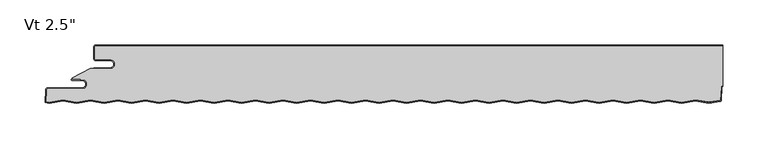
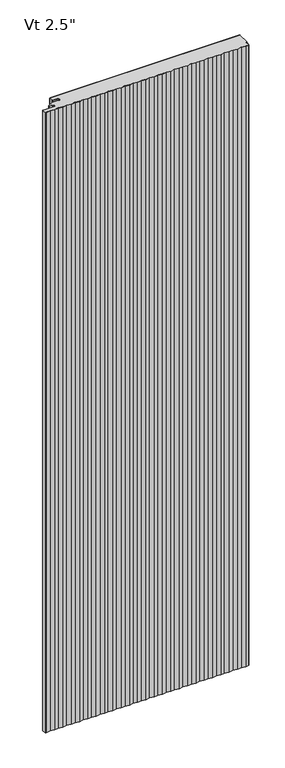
"""IFC4 building model written with IfcOpenShell, lengths in millimetres: plate geometry."""

import ifcopenshell
import ifcopenshell.guid

model = None  # the IFC model being written
_history = None  # IfcOwnerHistory: only IFC2X3 demands one
_inside = {}  # id of a spatial element -> (the spatial element, [elements in it])
_under = {}  # id of a project, library or spatial element -> (it, [spatial elements below it])
_declared = {}  # id of a project -> (the project, [libraries it declares])
_typed = {}  # id of a type object -> (the type object, [elements of that type])
_made_of = {}  # id of a material, layer set ... -> (it, [elements and type objects made of it])


def new_model(schema):
    """Start an empty IFC model of exactly this schema.

    Asked for "IFC4X3", IfcOpenShell would pick the latest addendum, in which some entities
    have other attributes; the version numbers below select the first issue.
    IFC2X3 requires an IfcOwnerHistory on every rooted entity: one is made here for all.
    """
    global model, _history
    if schema == "IFC4X3":
        model = ifcopenshell.file(schema_version=(4, 3, 0, 0))
    else:
        model = ifcopenshell.file(schema=schema)
    _inside.clear()
    _under.clear()
    _declared.clear()
    _typed.clear()
    _made_of.clear()
    _history = None
    if model.schema == "IFC2X3":
        org = make("IfcOrganization", Name="unknown")
        user = make(
            "IfcPersonAndOrganization",
            ThePerson=make("IfcPerson", FamilyName="unknown"),
            TheOrganization=org,
        )
        app = make(
            "IfcApplication",
            ApplicationDeveloper=org,
            Version="unknown",
            ApplicationFullName="unknown",
            ApplicationIdentifier="unknown",
        )
        _history = make(
            "IfcOwnerHistory",
            OwningUser=user,
            OwningApplication=app,
            ChangeAction="ADDED",
            CreationDate=0,
        )
    return model


def make(cls, **values):
    """One entity of the class cls with the attributes given. An attribute that is None is left unset."""
    return model.create_entity(
        cls, **{name: value for name, value in values.items() if value is not None}
    )


def rooted(cls, **values):
    """An entity with a GlobalId (a new one), such as an element, a storey or a relation."""
    return make(cls, GlobalId=ifcopenshell.guid.new(), OwnerHistory=_history, **values)


def si_unit(unit_type, name, prefix=None):
    """IfcSIUnit, for example si_unit("LENGTHUNIT", "METRE", prefix="MILLI")."""
    return make("IfcSIUnit", UnitType=unit_type, Prefix=prefix, Name=name)


def assignment(units):
    """IfcUnitAssignment: the units of a project."""
    return None if units is None else make("IfcUnitAssignment", Units=units)


def point(xyz):
    """IfcCartesianPoint."""
    return None if xyz is None else make("IfcCartesianPoint", Coordinates=xyz)


def direction(xyz):
    """IfcDirection."""
    return None if xyz is None else make("IfcDirection", DirectionRatios=xyz)


def frame(location, z_axis=None, x_axis=None):
    """IfcAxis2Placement3D, a coordinate frame: its origin and axes. An axis left out is left unset."""
    return make(
        "IfcAxis2Placement3D",
        Location=point(location),
        Axis=direction(z_axis),
        RefDirection=direction(x_axis),
    )


def frame_2d(location, x_axis=None):
    """IfcAxis2Placement2D, a coordinate frame in the plane: its origin and x axis."""
    return make(
        "IfcAxis2Placement2D", Location=point(location), RefDirection=direction(x_axis)
    )


def origin():
    """The frame at (0, 0, 0) with its axes left unset."""
    return frame((0.0, 0.0, 0.0))


def origin_with_axes():
    """The frame at (0, 0, 0) with the z axis (0, 0, 1) and the x axis (1, 0, 0) written out."""
    return frame((0.0, 0.0, 0.0), z_axis=(0.0, 0.0, 1.0), x_axis=(1.0, 0.0, 0.0))


def place(relative_to, where):
    """IfcLocalPlacement: puts the frame where relative to a parent placement (None: the world)."""
    return make(
        "IfcLocalPlacement", PlacementRelTo=relative_to, RelativePlacement=where
    )


def context(
    kind, dimensions, precision=None, world=None, true_north=None, identifier=None
):
    """IfcGeometricRepresentationContext, for example the 3D "Model" context."""
    return make(
        "IfcGeometricRepresentationContext",
        ContextIdentifier=identifier,
        ContextType=kind,
        CoordinateSpaceDimension=dimensions,
        Precision=precision,
        WorldCoordinateSystem=world,
        TrueNorth=true_north,
    )


def project(units=None, contexts=None):
    """IfcProject with its units and contexts."""
    return rooted(
        "IfcProject",
        Name="project",
        RepresentationContexts=contexts,
        UnitsInContext=assignment(units),
    )


def spatial(cls, under=None, at=None, **own):
    """A site, building, storey or space (cls), placed at a placement, below another one or the project."""
    s = rooted(cls, ObjectPlacement=at, **own)
    if under is not None:
        _under.setdefault(under.id(), (under, []))[1].append(s)
    return s


def polyline(points):
    """IfcPolyline through the points."""
    return make("IfcPolyline", Points=[point(p) for p in points])


def circle_curve(where, radius):
    """IfcCircle in the frame where."""
    return make("IfcCircle", Position=where, Radius=radius)


def trimmed(basis, trim1, trim2, sense, master):
    """IfcTrimmedCurve: the piece of a basis curve between two trims."""
    return make(
        "IfcTrimmedCurve",
        BasisCurve=basis,
        Trim1=trim1,
        Trim2=trim2,
        SenseAgreement=sense,
        MasterRepresentation=master,
    )


def segment(curve, same_sense, transition):
    """IfcCompositeCurveSegment."""
    return make(
        "IfcCompositeCurveSegment",
        Transition=transition,
        SameSense=same_sense,
        ParentCurve=curve,
    )


def composite_curve(segments, self_intersect=None):
    """IfcCompositeCurve: segments joined end to end."""
    return make("IfcCompositeCurve", Segments=segments, SelfIntersect=self_intersect)


def outline(outer, holes=None, kind="AREA"):
    """IfcArbitraryClosedProfileDef: a profile drawn as a closed curve; with holes, ...WithVoids."""
    if holes is None:
        return make("IfcArbitraryClosedProfileDef", ProfileType=kind, OuterCurve=outer)
    return make(
        "IfcArbitraryProfileDefWithVoids",
        ProfileType=kind,
        OuterCurve=outer,
        InnerCurves=holes,
    )


def extrude(swept, where, along, depth):
    """IfcExtrudedAreaSolid: the profile swept, set in the frame where, extruded along a direction by depth."""
    return make(
        "IfcExtrudedAreaSolid",
        SweptArea=swept,
        Position=where,
        ExtrudedDirection=direction(along),
        Depth=depth,
    )


def shape(context_of_items, identifier, shape_type, items):
    """IfcShapeRepresentation: the items that make up one representation, for example the "Body"."""
    return make(
        "IfcShapeRepresentation",
        ContextOfItems=context_of_items,
        RepresentationIdentifier=identifier,
        RepresentationType=shape_type,
        Items=items,
    )


def source(mapping_origin, context_of_items, identifier, shape_type, items):
    """IfcRepresentationMap: a shape defined once, which mapped items show again and again."""
    return make(
        "IfcRepresentationMap",
        MappingOrigin=mapping_origin,
        MappedRepresentation=shape(context_of_items, identifier, shape_type, items),
    )


def transform(
    local_origin,
    x_axis=None,
    y_axis=None,
    z_axis=None,
    scale=None,
    scale2=None,
    scale3=None,
    uniform=True,
):
    """IfcCartesianTransformationOperator3D, or its non-uniform kind. x_axis, y_axis, z_axis: its Axis1, 2, 3."""
    if uniform:
        return make(
            "IfcCartesianTransformationOperator3D",
            Axis1=direction(x_axis),
            Axis2=direction(y_axis),
            LocalOrigin=point(local_origin),
            Scale=scale,
            Axis3=direction(z_axis),
        )
    return make(
        "IfcCartesianTransformationOperator3DnonUniform",
        Axis1=direction(x_axis),
        Axis2=direction(y_axis),
        LocalOrigin=point(local_origin),
        Scale=scale,
        Axis3=direction(z_axis),
        Scale2=scale2,
        Scale3=scale3,
    )


def mapped(mapping_source, mapping_target):
    """IfcMappedItem: shows the shape of a source again, moved by a transform."""
    return make(
        "IfcMappedItem", MappingSource=mapping_source, MappingTarget=mapping_target
    )


def made_of(thing, what):
    """Note that an element or type object is made of a material, layer set ...; save() writes the relation."""
    if what is not None:
        _made_of.setdefault(what.id(), (what, []))[1].append(thing)
    return thing


def element(
    cls,
    number,
    at=None,
    inside=None,
    cuts=None,
    type_object=None,
    material=None,
    context=None,
    identifier="Body",
    shape_type=None,
    held_by="IfcProductDefinitionShape",
    body=None,
    shapes=None,
    **own,
):
    """One element of the class cls, such as IfcWall. Its Tag is "e" and its number.

    at: its placement. inside: the storey or other place that contains it. cuts: it is an
    opening in that element (IfcRelVoidsElement). A single representation is given by context,
    identifier, shape_type and body (its items); several are given by shapes. held_by: the class
    of the entity that holds the representations. save() writes the other relations.
    """
    e = rooted(cls, Tag="e%d" % number, ObjectPlacement=at, **own)
    if body is not None:
        shapes = [shape(context, identifier, shape_type, body)]
    if shapes is not None:
        e.Representation = make(held_by, Representations=shapes)
    if inside is not None:
        _inside.setdefault(inside.id(), (inside, []))[1].append(e)
    if cuts is not None:
        rooted(
            "IfcRelVoidsElement", RelatingBuildingElement=cuts, RelatedOpeningElement=e
        )
    if type_object is not None:
        _typed.setdefault(type_object.id(), (type_object, []))[1].append(e)
    return made_of(e, material)


def aggregate(whole, parts):
    """IfcRelAggregates: a whole, such as a stair, and the parts it consists of."""
    return rooted("IfcRelAggregates", RelatingObject=whole, RelatedObjects=parts)


def save(model, path):
    """Write the relations noted so far, then the file.

    IfcRelAggregates (storeys below a building ...), IfcRelContainedInSpatialStructure (elements
    in a storey), IfcRelDefinesByType, IfcRelAssociatesMaterial and IfcRelDeclares: one each for
    every whole, place, type object, material and project.
    """
    for whole, parts in _under.values():
        aggregate(whole, parts)
    for where, things in _inside.values():
        rooted(
            "IfcRelContainedInSpatialStructure",
            RelatedElements=things,
            RelatingStructure=where,
        )
    for kind, things in _typed.values():
        rooted("IfcRelDefinesByType", RelatedObjects=things, RelatingType=kind)
    for what, things in _made_of.values():
        rooted("IfcRelAssociatesMaterial", RelatedObjects=things, RelatingMaterial=what)
    for by, libraries in _declared.values():
        rooted("IfcRelDeclares", RelatingContext=by, RelatedDefinitions=libraries)
    model.write(path)


def plate_209ea606(model_context):
    return source(origin(), model_context, "Body", "SweptSolid", [
        extrude(outline(composite_curve([segment(polyline([(-329.9499998, -16.4625), (-345.8249998, -16.4625)]), True, "CONTINUOUS"), segment(trimmed(circle_curve(frame_2d((-345.8249998, -15.08125)), 1.38125), [point((-345.8249998, -16.4625))], [point((-347.2062498, -15.08125))], False, "CARTESIAN"), True, "CONTINUOUS"), segment(polyline([(-347.2062498, -15.08125), (-347.2062498, -2.38125)]), True, "CONTINUOUS"), segment(trimmed(circle_curve(frame_2d((-345.8249998, -2.38125)), 1.38125), [point((-347.2062498, -2.38125))], [point((-345.8249998, -1.0))], False, "CARTESIAN"), True, "CONTINUOUS"), segment(polyline([(-345.8249998, -1.0), (348.9999998, -1.0), (348.9999998, -45.091556)]), True, "CONTINUOUS"), segment(trimmed(circle_curve(frame_2d((349.5261348, -47.625)), 2.5875), [point((348.9999998, -45.091556))], [point((346.9421809, -47.4895807))], True, "CARTESIAN"), True, "CONTINUOUS"), segment(polyline([(346.9421809, -47.4895807), (346.2043986, -61.5673048), (333.4662502, -63.6054086), (318.4288176, -61.1994194), (303.1888176, -63.6378194), (287.9488176, -61.1994194), (272.7088176, -63.6378194), (257.4688176, -61.1994194), (242.2288176, -63.6378194), (226.9888176, -61.1994194), (211.7488176, -63.6378194), (196.5088176, -61.1994194), (181.2688176, -63.6378194), (166.0288176, -61.1994194), (150.7888176, -63.6378194), (135.5488176, -61.1994194), (120.3088176, -63.6378194), (105.0688176, -61.1994194), (89.8288176, -63.6378194), (74.5888176, -61.1994194), (59.3488176, -63.6378194), (44.1088176, -61.1994194), (28.8688176, -63.6378194), (13.6288176, -61.1994194), (-1.6111824, -63.6378194), (-16.8511824, -61.1994194), (-32.0911824, -63.6378194), (-47.3311824, -61.1994194), (-62.5711824, -63.6378194), (-77.8111824, -61.1994194), (-93.0511824, -63.6378194), (-108.2911824, -61.1994194), (-123.5311824, -63.6378194), (-138.7711824, -61.1994194), (-154.0111824, -63.6378194), (-169.2511824, -61.1994194), (-184.4911824, -63.6378194), (-199.7311824, -61.1994194), (-214.9711824, -63.6378194), (-230.2111824, -61.1994194), (-245.4511824, -63.6378194), (-260.6911824, -61.1994194), (-275.9311824, -63.6378194), (-291.1711824, -61.1994194), (-306.4111824, -63.6378194), (-321.6511824, -61.1994194), (-336.8911824, -63.6378194), (-352.1311824, -61.1994194), (-367.3711824, -63.6378194), (-382.6111824, -61.1994194), (-397.8511824, -63.6378194), (-401.1735092, -63.1062471), (-400.483179, -49.933961)]), True, "CONTINUOUS"), segment(trimmed(circle_curve(frame_2d((-399.1038219, -50.00625)), 1.38125), [point((-400.483179, -49.933961))], [point((-399.1038219, -48.625))], False, "CARTESIAN"), True, "CONTINUOUS"), segment(polyline([(-399.1038219, -48.625), (-360.9205173, -48.625)]), True, "CONTINUOUS"), segment(trimmed(circle_curve(frame_2d((-360.9205173, -43.65625)), 4.96875), [point((-360.9205173, -48.625))], [point((-360.9205173, -38.6875))], True, "CARTESIAN"), True, "CONTINUOUS"), segment(polyline([(-360.9205173, -38.6875), (-362.5080173, -38.89375), (-362.5080173, -38.1), (-372.0187498, -38.1), (-372.0187498, -36.5326309), (-352.1323421, -26.4), (-329.9499998, -26.4)]), True, "CONTINUOUS"), segment(trimmed(circle_curve(frame_2d((-329.9499998, -21.43125)), 4.96875), [point((-329.9499998, -26.4))], [point((-329.9499998, -16.4625))], True, "CARTESIAN"), True, "CONTINUOUS")], self_intersect=False)), origin_with_axes(), (0.0, 0.0, 1.0), 2400.0),
        extrude(outline(composite_curve([segment(polyline([(-348.2062498, -25.4), (-329.9499998, -25.4)]), True, "CONTINUOUS"), segment(trimmed(circle_curve(frame_2d((-329.9499998, -21.43125)), 3.96875), [point((-329.9499998, -25.4))], [point((-329.9499998, -17.4625))], True, "CARTESIAN"), True, "CONTINUOUS"), segment(polyline([(-329.9499998, -17.4625), (-345.8249998, -17.4625)]), True, "CONTINUOUS"), segment(trimmed(circle_curve(frame_2d((-345.8249998, -15.08125)), 2.38125), [point((-345.8249998, -17.4625))], [point((-348.2062498, -15.08125))], False, "CARTESIAN"), True, "CONTINUOUS"), segment(polyline([(-348.2062498, -15.08125), (-348.2062498, -2.38125)]), True, "CONTINUOUS"), segment(trimmed(circle_curve(frame_2d((-345.8249998, -2.38125)), 2.38125), [point((-348.2062498, -2.38125))], [point((-345.8249998, 0.0))], False, "CARTESIAN"), True, "CONTINUOUS"), segment(polyline([(-345.8249998, 0.0), (348.9999998, 0.0), (348.9999998, -1.0), (-345.8249998, -1.0)]), True, "CONTINUOUS"), segment(trimmed(circle_curve(frame_2d((-345.8249998, -2.38125)), 1.38125), [point((-345.8249998, -1.0))], [point((-347.2062498, -2.38125))], True, "CARTESIAN"), True, "CONTINUOUS"), segment(polyline([(-347.2062498, -2.38125), (-347.2062498, -15.08125)]), True, "CONTINUOUS"), segment(trimmed(circle_curve(frame_2d((-345.8249998, -15.08125)), 1.38125), [point((-347.2062498, -15.08125))], [point((-345.8249998, -16.4625))], True, "CARTESIAN"), True, "CONTINUOUS"), segment(polyline([(-345.8249998, -16.4625), (-329.9499998, -16.4625)]), True, "CONTINUOUS"), segment(trimmed(circle_curve(frame_2d((-329.9499998, -21.43125)), 4.96875), [point((-329.9499998, -16.4625))], [point((-329.9499998, -26.4))], False, "CARTESIAN"), True, "CONTINUOUS"), segment(polyline([(-329.9499998, -26.4), (-348.2062498, -26.4), (-348.2062498, -25.4)]), True, "CONTINUOUS")], self_intersect=False)), origin_with_axes(), (0.0, 0.0, 1.0), 2400.0),
        extrude(outline(composite_curve([segment(polyline([(-372.2314548, -38.1), (-362.5080173, -38.1), (-362.5080173, -38.89375), (-360.9205173, -38.6875)]), True, "CONTINUOUS"), segment(trimmed(circle_curve(frame_2d((-360.9205173, -43.65625)), 4.96875), [point((-360.9205173, -38.6875))], [point((-360.9205173, -48.625))], False, "CARTESIAN"), True, "CONTINUOUS"), segment(polyline([(-360.9205173, -48.625), (-399.1038219, -48.625)]), True, "CONTINUOUS"), segment(trimmed(circle_curve(frame_2d((-399.1038219, -50.00625)), 1.38125), [point((-399.1038219, -48.625))], [point((-400.483179, -49.933961))], True, "CARTESIAN"), True, "CONTINUOUS"), segment(polyline([(-400.483179, -49.933961), (-401.1788914, -63.2089447), (-397.8709185, -63.7382204), (-382.6309185, -61.2998204), (-367.3909185, -63.7382204), (-352.1509185, -61.2998204), (-336.9109185, -63.7382204), (-321.6709185, -61.2998204), (-306.4309185, -63.7382204), (-291.1909185, -61.2998204), (-275.9509185, -63.7382204), (-260.7109185, -61.2998204), (-245.4709185, -63.7382204), (-230.2309185, -61.2998204), (-214.9909185, -63.7382204), (-199.7509185, -61.2998204), (-184.5109185, -63.7382204), (-169.2709185, -61.2998204), (-154.0309185, -63.7382204), (-138.7909185, -61.2998204), (-123.5509185, -63.7382204), (-108.3109185, -61.2998204), (-93.0709185, -63.7382204), (-77.8309185, -61.2998204), (-62.5909185, -63.7382204), (-47.3509185, -61.2998204), (-32.1109185, -63.7382204), (-16.8709185, -61.2998204), (-1.6309185, -63.7382204), (13.6090815, -61.2998204), (28.8490815, -63.7382204), (44.0890815, -61.2998204), (59.3290815, -63.7382204), (74.5690815, -61.2998204), (89.8090815, -63.7382204), (105.0490815, -61.2998204), (120.2890815, -63.7382204), (135.5290815, -61.2998204), (150.7690815, -63.7382204), (166.0090815, -61.2998204), (181.2490815, -63.7382204), (196.4890815, -61.2998204), (211.7290815, -63.7382204), (226.9690815, -61.2998204), (242.2090815, -63.7382204), (257.4490815, -61.2998204), (272.6890815, -63.7382204), (287.9290815, -61.2998204), (303.1690815, -63.7382204), (318.4090815, -61.2998204), (333.4465141, -63.7058096), (345.7302425, -61.740413)]), True, "CONTINUOUS"), segment(trimmed(circle_curve(frame_2d((345.637423, -61.1602917)), 0.5875), [point((345.7302425, -61.740413))], [point((346.2241179, -61.191039))], True, "CARTESIAN"), True, "CONTINUOUS"), segment(polyline([(346.2241179, -61.191039), (346.9421809, -47.4895807)]), True, "CONTINUOUS"), segment(trimmed(circle_curve(frame_2d((349.5261348, -47.625)), 2.5875), [point((346.9421809, -47.4895807))], [point((348.9999998, -45.091556))], False, "CARTESIAN"), True, "CONTINUOUS"), segment(polyline([(348.9999998, -45.091556), (348.9999998, -46.1272222)]), True, "CONTINUOUS"), segment(trimmed(circle_curve(frame_2d((349.5261348, -47.625)), 1.5875), [point((348.9999998, -46.1272222))], [point((347.9408104, -47.5419167))], True, "CARTESIAN"), True, "CONTINUOUS"), segment(polyline([(347.9408104, -47.5419167), (347.2227474, -61.243375)]), True, "CONTINUOUS"), segment(trimmed(circle_curve(frame_2d((345.637423, -61.1602917)), 1.5875), [point((347.2227474, -61.243375))], [point((345.888233, -62.7278537))], False, "CARTESIAN"), True, "CONTINUOUS"), segment(polyline([(345.888233, -62.7278537), (333.4465141, -64.7185287), (318.4090815, -62.3125395), (303.1690815, -64.7509395), (287.9290815, -62.3125395), (272.6890815, -64.7509395), (257.4490815, -62.3125395), (242.2090815, -64.7509395), (226.9690815, -62.3125395), (211.7290815, -64.7509395), (196.4890815, -62.3125395), (181.2490815, -64.7509395), (166.0090815, -62.3125395), (150.7690815, -64.7509395), (135.5290815, -62.3125395), (120.2890815, -64.7509395), (105.0490815, -62.3125395), (89.8090815, -64.7509395), (74.5690815, -62.3125395), (59.3290815, -64.7509395), (44.0890815, -62.3125395), (28.8490815, -64.7509395), (13.6090815, -62.3125395), (-1.6309185, -64.7509395), (-16.8709185, -62.3125395), (-32.1109185, -64.7509395), (-47.3509185, -62.3125395), (-62.5909185, -64.7509395), (-77.8309185, -62.3125395), (-93.0709185, -64.7509395), (-108.3109185, -62.3125395), (-123.5509185, -64.7509395), (-138.7909185, -62.3125395), (-154.0309185, -64.7509395), (-169.2709185, -62.3125395), (-184.5109185, -64.7509395), (-199.7509185, -62.3125395), (-214.9909185, -64.7509395), (-230.2309185, -62.3125395), (-245.4709185, -64.7509395), (-260.7109185, -62.3125395), (-275.9509185, -64.7509395), (-291.1909185, -62.3125395), (-306.4309185, -64.7509395), (-321.6709185, -62.3125395), (-336.9109185, -64.7509395), (-352.1509185, -62.3125395), (-367.3909185, -64.7509395), (-382.6309185, -62.3125395), (-397.8709185, -64.7509395), (-402.2245698, -64.0543553), (-401.4818085, -49.881625)]), True, "CONTINUOUS"), segment(trimmed(circle_curve(frame_2d((-399.1038219, -50.00625)), 2.38125), [point((-401.4818085, -49.881625))], [point((-399.1038219, -47.625))], False, "CARTESIAN"), True, "CONTINUOUS"), segment(polyline([(-399.1038219, -47.625), (-360.9205173, -47.625)]), True, "CONTINUOUS"), segment(trimmed(circle_curve(frame_2d((-360.9205173, -43.65625)), 3.96875), [point((-360.9205173, -47.625))], [point((-360.9205173, -39.6875))], True, "CARTESIAN"), True, "CONTINUOUS"), segment(polyline([(-360.9205173, -39.6875), (-372.2314548, -39.6875)]), True, "CONTINUOUS"), segment(trimmed(circle_curve(frame_2d((-372.2314548, -38.89375)), 0.79375), [point((-372.2314548, -39.6875))], [point((-372.2314548, -38.1))], False, "CARTESIAN"), True, "CONTINUOUS")], self_intersect=False)), origin_with_axes(), (0.0, 0.0, 1.0), 2400.0),
    ])


if __name__ == "__main__":
    model = new_model("IFC4")
    model_context = context("Model", 3, world=origin())
    ifc_project = project(units=[si_unit("LENGTHUNIT", "METRE", prefix="MILLI")], contexts=[model_context])
    site = spatial("IfcSite", under=ifc_project)
    building = spatial("IfcBuilding", under=site)
    placement = place(None, origin())
    plate_shape = plate_209ea606(model_context)
    element("IfcPlate", 1, ObjectType="KIP-30-DWHR-R19-CP-Vt-S : Vt 2.5\"", at=placement, inside=building, context=model_context, shape_type="MappedRepresentation", body=[
        mapped(plate_shape, transform((0.0, 0.0, 0.0), x_axis=(1.0, 0.0, 0.0), y_axis=(0.0, 1.0, 0.0), z_axis=(0.0, 0.0, 1.0))),
    ])
    save(model, "model.ifc")
